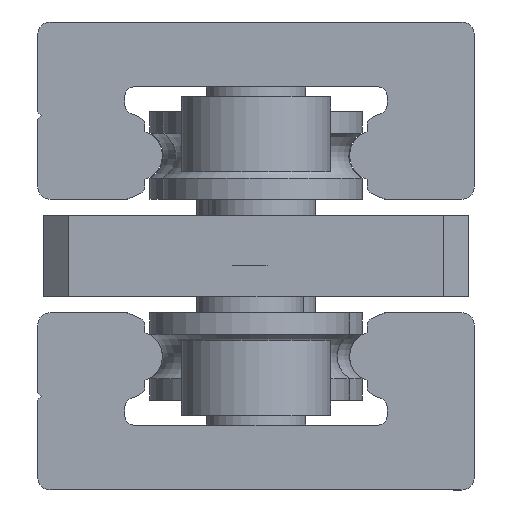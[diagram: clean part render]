
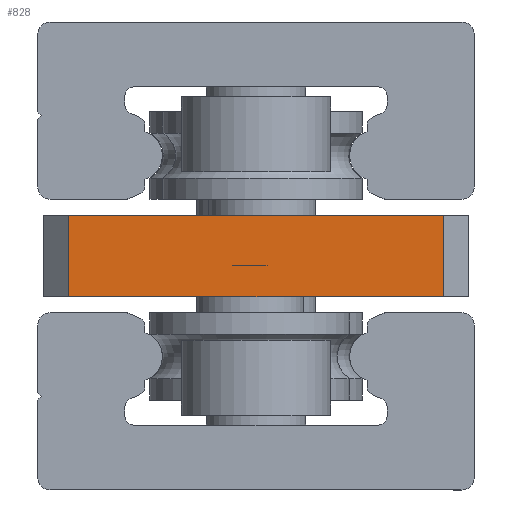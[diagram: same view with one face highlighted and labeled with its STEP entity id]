
A CAD part, left-side view. The second image highlights one B-rep face of the part: STEP entity #828.
In plain terms, the highlighted planar face has unit normal (-1, 0, 0).
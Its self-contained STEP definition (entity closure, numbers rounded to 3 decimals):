
#275 = CARTESIAN_POINT ( 'NONE',  ( 0., -15., 4.8 ) ) ;
#828 = ADVANCED_FACE ( 'NONE', ( #3802 ), #3022, .F. ) ;
#1091 = ORIENTED_EDGE ( 'NONE', *, *, #2382, .F. ) ;
#1298 = VECTOR ( 'NONE', #3772, 1000. ) ;
#1541 = EDGE_CURVE ( 'NONE', #5128, #6281, #6740, .T. ) ;
#1674 = CARTESIAN_POINT ( 'NONE',  ( 0., -15., 6.425 ) ) ;
#1722 = CARTESIAN_POINT ( 'NONE',  ( 0., 15., 11.3 ) ) ;
#2382 = EDGE_CURVE ( 'NONE', #6281, #6887, #4599, .T. ) ;
#2654 = VERTEX_POINT ( 'NONE', #275 ) ;
#2657 = DIRECTION ( 'NONE',  ( 0., 1., 0. ) ) ;
#3022 = PLANE ( 'NONE',  #8654 ) ;
#3165 = DIRECTION ( 'NONE',  ( 0., 0., 1. ) ) ;
#3419 = CARTESIAN_POINT ( 'NONE',  ( 0., -15., 11.3 ) ) ;
#3772 = DIRECTION ( 'NONE',  ( 0., 0., -1. ) ) ;
#3802 = FACE_OUTER_BOUND ( 'NONE', #5121, .T. ) ;
#3829 = CARTESIAN_POINT ( 'NONE',  ( 0., 17., 11.3 ) ) ;
#3895 = ORIENTED_EDGE ( 'NONE', *, *, #6205, .F. ) ;
#4353 = CARTESIAN_POINT ( 'NONE',  ( 0., 0., 8.05 ) ) ;
#4599 = LINE ( 'NONE', #3829, #4602 ) ;
#4602 = VECTOR ( 'NONE', #7364, 1000. ) ;
#5121 = EDGE_LOOP ( 'NONE', ( #5544, #7293, #3895, #1091 ) ) ;
#5128 = VERTEX_POINT ( 'NONE', #6154 ) ;
#5544 = ORIENTED_EDGE ( 'NONE', *, *, #1541, .F. ) ;
#5568 = EDGE_CURVE ( 'NONE', #2654, #5128, #6828, .T. ) ;
#5807 = DIRECTION ( 'NONE',  ( 0., 0., -1. ) ) ;
#6148 = CARTESIAN_POINT ( 'NONE',  ( 0., -17., 4.8 ) ) ;
#6154 = CARTESIAN_POINT ( 'NONE',  ( 0., 15., 4.8 ) ) ;
#6205 = EDGE_CURVE ( 'NONE', #6887, #2654, #7891, .T. ) ;
#6281 = VERTEX_POINT ( 'NONE', #1722 ) ;
#6560 = DIRECTION ( 'NONE',  ( 1., 0., 0. ) ) ;
#6740 = LINE ( 'NONE', #8106, #7961 ) ;
#6828 = LINE ( 'NONE', #6148, #7091 ) ;
#6887 = VERTEX_POINT ( 'NONE', #3419 ) ;
#7091 = VECTOR ( 'NONE', #2657, 1000. ) ;
#7293 = ORIENTED_EDGE ( 'NONE', *, *, #5568, .F. ) ;
#7364 = DIRECTION ( 'NONE',  ( 0., -1., 0. ) ) ;
#7891 = LINE ( 'NONE', #1674, #1298 ) ;
#7961 = VECTOR ( 'NONE', #3165, 1000. ) ;
#8106 = CARTESIAN_POINT ( 'NONE',  ( 0., 15., 9.675 ) ) ;
#8654 = AXIS2_PLACEMENT_3D ( 'NONE', #4353, #6560, #5807 ) ;
